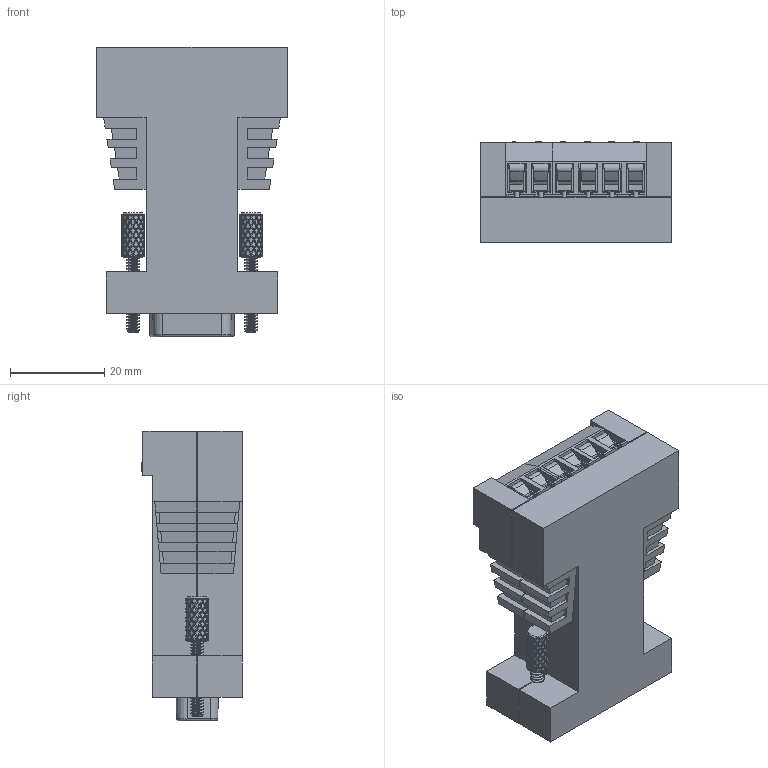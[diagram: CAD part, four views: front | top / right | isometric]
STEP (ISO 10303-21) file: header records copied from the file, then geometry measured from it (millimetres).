
FILE_DESCRIPTION(/* description */ (''),/* implementation_level */ '2;1');
FILE_NAME(/* name */ '/Users/leo/Desktop/Coolgear May/GM-1042e-B/GM-1042e-B Model3D LPV1.step',/* time_stamp */ '2021-08-24T15:30:06-04:00',/* author */ (''),/* organization */ (''),/* preprocessor_version */ 'ST-DEVELOPER v18.1',/* originating_system */ 'Autodesk Translation Framework v10.9.0.1377',/* authorisation */ '');
FILE_SCHEMA (('AUTOMOTIVE_DESIGN { 1 0 10303 214 3 1 1 }'));
Products named in the file (1): FusionComponent
Bounding box: 40.5 x 21.33 x 61.5 mm (x, y, z)
Volume: 13316.1 mm3; surface area: 23132.1 mm2
Topology: 1 solids, 1 shells, 2420 faces, 6482 edges, 4176 vertices
Faces by surface type: plane 1751, cylinder 530, bspline 96, torus 22, cone 12, sphere 9
Full cylindrical faces by diameter (mm): 1 x15, 1.119 x1, 1.44 x1, 2.02 x50, 2.36 x1, 2.8 x14, 2.845 x30, 3.36 x2, 3.5 x6, 3.8 x6, 4 x1
Entity records: 84315 total; most frequent: CARTESIAN_POINT 22527, DIRECTION 13329, ORIENTED_EDGE 12946, EDGE_CURVE 6473, AXIS2_PLACEMENT_3D 4965, VERTEX_POINT 4176, LINE 3399, VECTOR 3399
